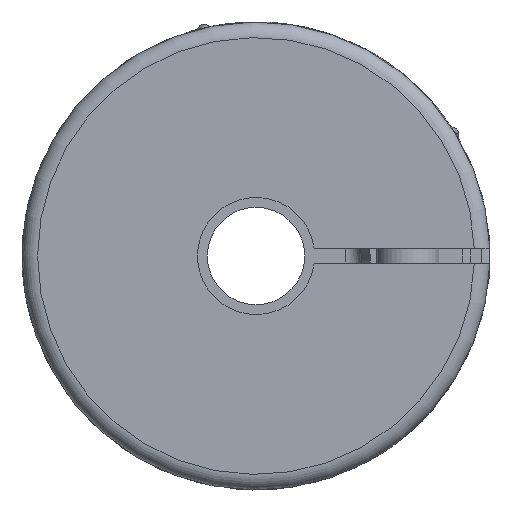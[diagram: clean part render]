
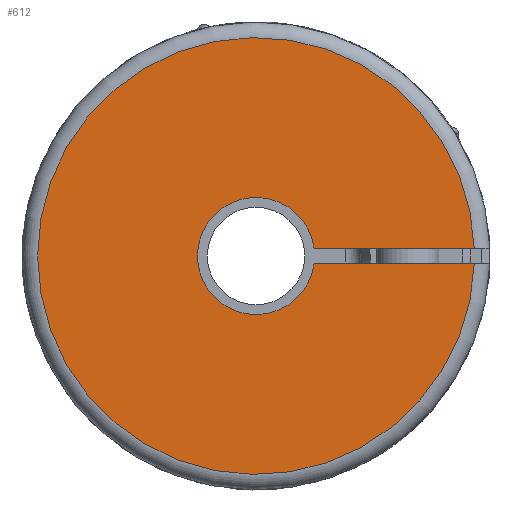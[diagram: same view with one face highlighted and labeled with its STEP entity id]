
A CAD part, left-side view. The second image highlights one B-rep face of the part: STEP entity #612.
In plain terms, the highlighted planar face has unit normal (-1, 0, 0).
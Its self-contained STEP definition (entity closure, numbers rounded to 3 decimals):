
#612 = ADVANCED_FACE( '', ( #1326 ), #1327, .T. );
#1326 = FACE_OUTER_BOUND( '', #2099, .T. );
#1327 = PLANE( '', #2100 );
#2099 = EDGE_LOOP( '', ( #3914, #3915, #3916, #3917 ) );
#2100 = AXIS2_PLACEMENT_3D( '', #3918, #3919, #3920 );
#3914 = ORIENTED_EDGE( '', *, *, #4397, .T. );
#3915 = ORIENTED_EDGE( '', *, *, #5092, .T. );
#3916 = ORIENTED_EDGE( '', *, *, #4507, .T. );
#3917 = ORIENTED_EDGE( '', *, *, #4775, .T. );
#3918 = CARTESIAN_POINT( '', ( 0., 0., 6. ) );
#3919 = DIRECTION( '', ( -1., 0., 0. ) );
#3920 = DIRECTION( '', ( 0., 0., 1. ) );
#4397 = EDGE_CURVE( '', #5246, #5244, #5247, .T. );
#4507 = EDGE_CURVE( '', #5442, #5443, #5444, .T. );
#4775 = EDGE_CURVE( '', #5443, #5246, #5880, .T. );
#5092 = EDGE_CURVE( '', #5244, #5442, #6289, .T. );
#5244 = VERTEX_POINT( '', #6580 );
#5246 = VERTEX_POINT( '', #6583 );
#5247 = LINE( '', #6584, #6585 );
#5442 = VERTEX_POINT( '', #7062 );
#5443 = VERTEX_POINT( '', #7063 );
#5444 = LINE( '', #7064, #7065 );
#5880 = CIRCLE( '', #7822, 28. );
#6289 = CIRCLE( '', #8535, 7.5 );
#6580 = CARTESIAN_POINT( '', ( 0., -7.433, -1. ) );
#6583 = CARTESIAN_POINT( '', ( 0., -27.982, -1. ) );
#6584 = CARTESIAN_POINT( '', ( 0., -29.983, -1. ) );
#6585 = VECTOR( '', #8750, 1000. );
#7062 = CARTESIAN_POINT( '', ( 0., -7.433, 1. ) );
#7063 = CARTESIAN_POINT( '', ( 0., -27.982, 1. ) );
#7064 = CARTESIAN_POINT( '', ( 0., -5.916, 1. ) );
#7065 = VECTOR( '', #8905, 1000. );
#7822 = AXIS2_PLACEMENT_3D( '', #9287, #9288, #9289 );
#8535 = AXIS2_PLACEMENT_3D( '', #9675, #9676, #9677 );
#8750 = DIRECTION( '', ( 0., 1., 0. ) );
#8905 = DIRECTION( '', ( 0., -1., 0. ) );
#9287 = CARTESIAN_POINT( '', ( 0., 0., 0. ) );
#9288 = DIRECTION( '', ( -1., 0., 0. ) );
#9289 = DIRECTION( '', ( 0., 0., 1. ) );
#9675 = CARTESIAN_POINT( '', ( 0., 0., 0. ) );
#9676 = DIRECTION( '', ( 1., 0., 0. ) );
#9677 = DIRECTION( '', ( 0., -1., 0. ) );
